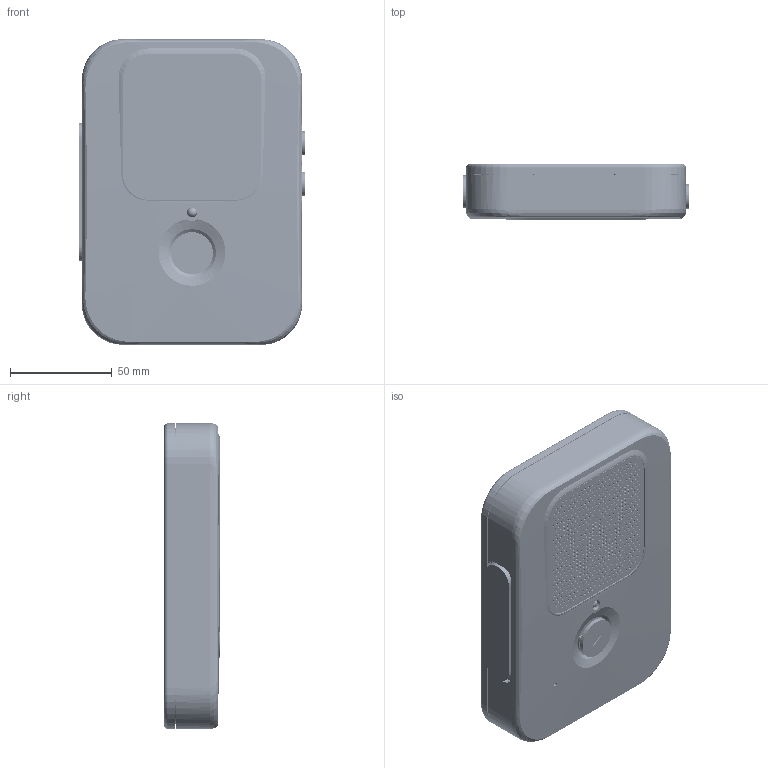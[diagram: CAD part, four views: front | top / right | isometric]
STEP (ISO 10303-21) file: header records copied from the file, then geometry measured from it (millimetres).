
FILE_DESCRIPTION(('Open CASCADE Model'),'2;1');
FILE_NAME('WALKIE_ONE_R9_CALIBRATED_PROTOTYPE','2026-09-06T11:49:23',( 'Author'),('Open CASCADE'),'Open CASCADE STEP processor 7.8', 'build123d','Unknown');
FILE_SCHEMA(('AUTOMOTIVE_DESIGN { 1 0 10303 214 1 1 1 1 }'));
Length unit declared in the file: millimetre
Products named in the file (1961): WALKIE_ONE_R9_CALIBRATED_PROTOTYPE; REF_PCB_ORIGINAL_306_SOLIDS; ASSEMBLY; SOLID; SHELL; REF_SPEAKER_RIGID_ORIGINAL; REF_BATTERY_CELL_AND_PROTECTION_ORIGINAL; REF_MIC_BREAKOUT_ORIGINAL_BOTTOM_PORT; REF_ANTENNA_FILM_AND_FEED_ORIGINAL; REF_B3F3150_PTT; REF_B3F3150_UP; REF_B3F3150_DOWN; REF_B3F4000_PLAY; PROXY_RGB_LED_VENDOR_ENVELOPE_AMBER_STATE; INS_M2p5_01; SCR_COVER_M2p5x7_01; INS_M2p5_02; SCR_COVER_M2p5x7_02; INS_M2p5_03; SCR_COVER_M2p5x7_03; INS_M2p5_04; SCR_COVER_M2p5x7_04; INS_M2p5_05; SCR_COVER_M2p5x7_05; INS_M2p5_06; SCR_COVER_M2p5x7_06; INS_M2p5_07; SCR_COVER_M2p5x7_07; INS_M2p5_08; SCR_COVER_M2p5x7_08; SCR_LED_RETAINER_-6; SCR_LED_RETAINER_6; LED_PACKAGE_RETAINER; LED_FLANGE_CUSHION; 01_FRONT_TUB_CONNECTED; 02_REAR_COVER_CONNECTED; ANTENNA_ADHESIVE_FILM; 03_GRILLE_304SS_0p8; GRILLE_PERIMETER_ADHESIVE; ACOUSTIC_MESH_PERMEABLE_ENVELOPE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
Assembly tree (2066 placements, depth 7):
  WALKIE_ONE_R9_CALIBRATED_PROTOTYPE
    REF_PCB_ORIGINAL_306_SOLIDS
      ASSEMBLY
        SOLID
      ASSEMBLY
        SOLID
      ASSEMBLY
        SOLID
      ASSEMBLY
        SOLID
      ASSEMBLY
        ASSEMBLY
          SOLID
          SOLID
          SOLID
          SOLID
          SOLID
          SOLID
          SOLID
          SOLID
          SOLID
          SOLID
          SOLID
          SOLID
          SOLID
          SOLID
      ASSEMBLY
        SOLID
      ASSEMBLY
        SOLID
      ASSEMBLY
        SOLID
      ASSEMBLY
        SOLID
      ASSEMBLY
        ASSEMBLY
          SOLID
          SOLID
          SOLID
          SOLID
          SOLID
          SOLID
          SOLID
          SOLID
          SOLID
          SOLID
          SOLID
          SOLID
          SOLID
          SOLID
      ASSEMBLY
        SOLID
      ASSEMBLY
        SOLID
      ASSEMBLY
        SOLID
      ASSEMBLY
        SOLID
      ASSEMBLY
        SOLID
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Bounding box: 110.5 x 27.73 x 150 mm (x, y, z)
Volume: 165890.5 mm3; surface area: 211092.7 mm2
Topology: 520 solids, 1885 shells, 23826 faces, 58138 edges, 36891 vertices
Faces by surface type: plane 18422, cylinder 3356, bspline 1559, extrusion 378, torus 50, cone 31, sphere 30
Full cylindrical faces by diameter (mm): 0.3 x61, 0.375 x1, 0.5 x1, 0.6 x4, 0.64 x24, 0.75 x4, 0.813 x5, 0.9 x8, 1 x549, 1.25 x6, 1.4 x111, 1.5 x6, 1.52 x12, 1.6 x18, 1.62 x2, 1.7 x4, 1.8 x8, 1.9 x14, 1.92 x23, 2 x27, 2.1 x6, 2.2 x23, 2.42 x8, 2.5 x14, 2.55 x6, 2.6 x2, 2.8 x12, 2.9 x9, 3 x4, 3.1 x2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
Entity records: 1305864 total; most frequent: CARTESIAN_POINT 313553, DIRECTION 175277, VECTOR 116978, LINE 116600, ORIENTED_EDGE 92037, PCURVE 92037, DEFINITIONAL_REPRESENTATION 92037, EDGE_CURVE 50529
